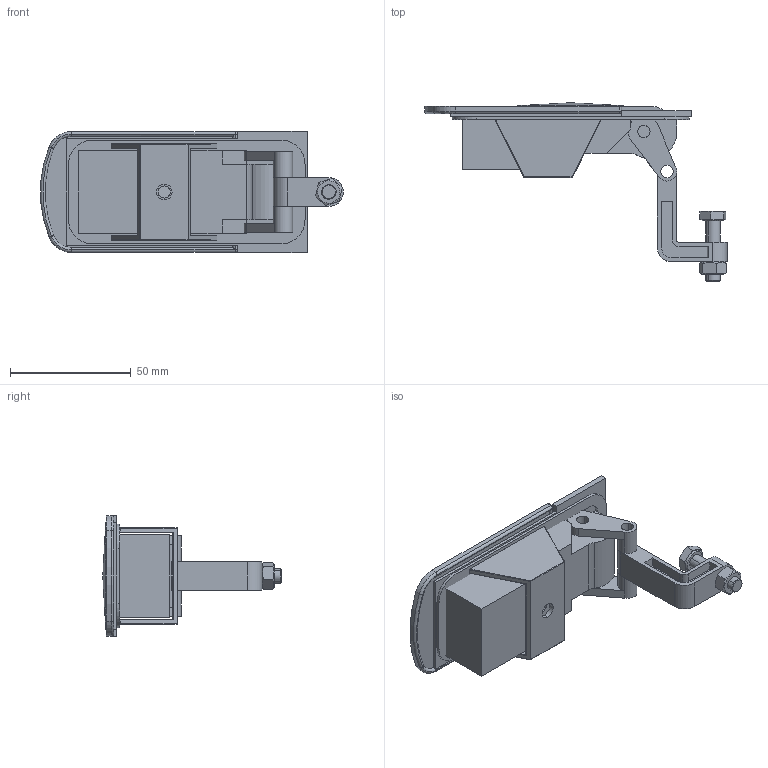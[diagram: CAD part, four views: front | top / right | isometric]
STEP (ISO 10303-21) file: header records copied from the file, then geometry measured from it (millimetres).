
FILE_DESCRIPTION (( 'STEP AP214' ), '1' );
FILE_NAME ('CUYUE.MS609-1-1.STEP', '2026-07-13T02:20:39', ( '' ), ( '' ), 'SwSTEP 2.0', 'SolidWorks 2020', '' );
FILE_SCHEMA (( 'AUTOMOTIVE_DESIGN' ));
Length unit declared in the file: millimetre
Products named in the file (8): 忒梟; hex nuts, style 1-grades ab gb_GB_FASTENER_NUT_SNAB1 M6-N; 砎蝶菜; hex head bolts-full thread grade c gb_GB_FASTENER_BOLT_HHBFTC M6X25-N; 殏俔揤踡璃; CUYUE.MS609-1-1; 翋极; 話裝蛌雄粣
Assembly tree (7 placements, depth 2):
  CUYUE.MS609-1-1
    翋极
    話裝蛌雄粣
    忒梟
    砎蝶菜
    殏俔揤踡璃
    hex head bolts-full thread grade c gb_GB_FASTENER_BOLT_HHBFTC M6X25-N
    hex nuts, style 1-grades ab gb_GB_FASTENER_NUT_SNAB1 M6-N
Bounding box: 125.35 x 73.9 x 50.2 mm (x, y, z)
Volume: 73069 mm3; surface area: 48952.4 mm2
Topology: 9 solids, 9 shells, 292 faces, 747 edges, 465 vertices
Faces by surface type: plane 142, cylinder 106, cone 26, sphere 12, torus 6
Entity records: 9169 total; most frequent: CARTESIAN_POINT 1682, DIRECTION 1541, ORIENTED_EDGE 1462, EDGE_CURVE 731, AXIS2_PLACEMENT_3D 544, VERTEX_POINT 465, LINE 453, VECTOR 453
